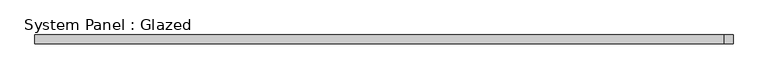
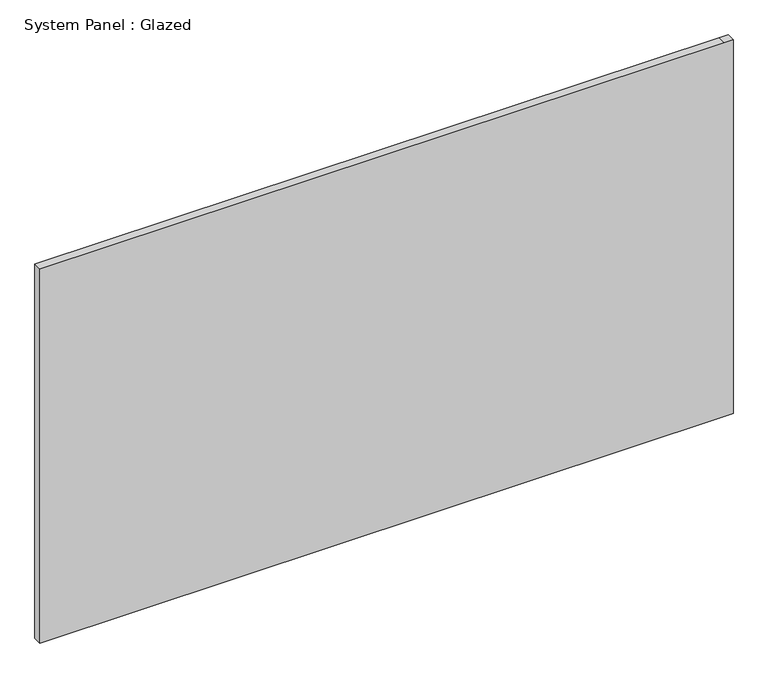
"""IFC4 building model written with IfcOpenShell, lengths in millimetres: plate geometry, System Panel : Glazed."""

from ifc_helpers import new_model, si_unit, frame, origin, place, context, project, spatial, polyline, outline, extrude, source, transform, mapped, element, save


def system_panel_glazed_75599714(model_context):
    return source(origin(), model_context, "Body", "SweptSolid", [
        extrude(outline(polyline([(0.0, -1012.825), (0.0, 987.425), (0.0, 1012.825), (1155.7, 1012.825), (1155.7, 987.425), (1155.7, -1012.825), (0.0, -1012.825)])), frame((0.0, -44.45, 0.0), z_axis=(0.0, 1.0, 0.0), x_axis=(0.0, 0.0, 1.0)), (0.0, 0.0, 1.0), 25.4),
    ])


if __name__ == "__main__":
    model = new_model("IFC4")
    model_context = context("Model", 3, world=origin())
    ifc_project = project(units=[si_unit("LENGTHUNIT", "METRE", prefix="MILLI")], contexts=[model_context])
    site = spatial("IfcSite", under=ifc_project)
    building = spatial("IfcBuilding", under=site)
    placement = place(None, origin())
    system_panel_glazed_shape = system_panel_glazed_75599714(model_context)
    element("IfcPlate", 1, ObjectType="System Panel : Glazed", at=placement, inside=building, context=model_context, shape_type="MappedRepresentation", body=[
        mapped(system_panel_glazed_shape, transform((0.0, 0.0, 0.0), x_axis=(1.0, 0.0, 0.0), y_axis=(0.0, 1.0, 0.0), z_axis=(0.0, 0.0, 1.0))),
    ])
    save(model, "model.ifc")
